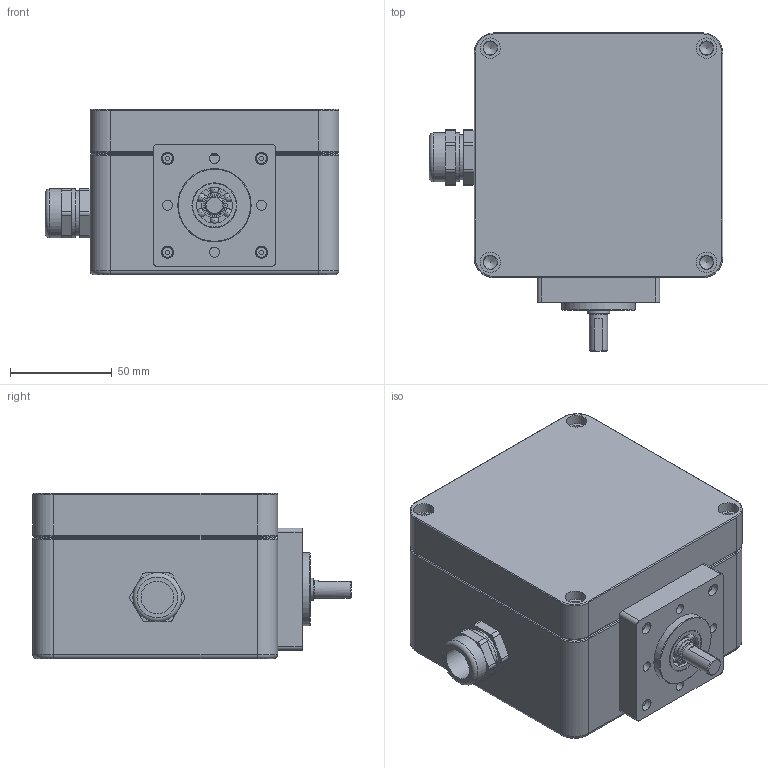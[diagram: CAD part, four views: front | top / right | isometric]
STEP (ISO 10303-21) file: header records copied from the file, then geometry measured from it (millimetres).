
FILE_DESCRIPTION((''),'2;1');
FILE_NAME('C:\Dokumente und Einstellungen\CAD\Desktop\KWG120.stp','2013-07-18T18:53:32',('CAD'),(''),'Autodesk Inventor 2011','Autodesk Inventor 2011','');
FILE_SCHEMA(('AUTOMOTIVE_DESIGN { 1 0 10303 214 1 1 1 1 }'));
Length unit declared in the file: millimetre
Products named in the file (12): 9350.01.537_KWG120_M37; 6099.21; 6099.07; 0408.04.005_Kugellager_d22x8x7mm; 0343.02.034_Sicherungsring J22; Schraube DIN 7984 - M3x16; Unterlegscheibe DIN 125-A 3; 0311.01; 0483.03; 6099.21.354_Gehäusedeckel 120x120x20; 0343.51
Assembly tree (17 placements, depth 2):
  9350.01.537_KWG120_M37
    6099.21
    6099.07
    0408.04.005_Kugellager_d22x8x7mm  x2
    0343.02.034_Sicherungsring J22
    Schraube DIN 7984 - M3x16  x4
    Unterlegscheibe DIN 125-A 3  x2
    0311.01  x2
    6099.21
    0483.03
    6099.21.354_Gehäusedeckel 120x120x20
    0343.51
Bounding box: 144 x 156 x 81 mm (x, y, z)
Volume: 464445.6 mm3; surface area: 159724.9 mm2
Topology: 17 solids, 17 shells, 637 faces, 1526 edges, 928 vertices
Faces by surface type: cylinder 242, plane 220, torus 137, sphere 20, cone 18
Full cylindrical faces by diameter (mm): 2 x1, 2.459 x2, 3 x8, 3.2 x4, 3.5 x4, 4.5 x1, 4.917 x6, 5.5 x4, 6 x4, 6.647 x4, 7 x10, 7.6 x1, 8 x4, 9 x1, 10 x4, 11 x5, 12.48 x4, 16 x1, 17.52 x4, 20 x1, 22 x7, 23 x1, 24 x2, 36 x1
Entity records: 15602 total; most frequent: CARTESIAN_POINT 3106, DIRECTION 2804, ORIENTED_EDGE 2236, AXIS2_PLACEMENT_3D 1178, EDGE_CURVE 1118, VERTEX_POINT 722, EDGE_LOOP 722, CIRCLE 614
